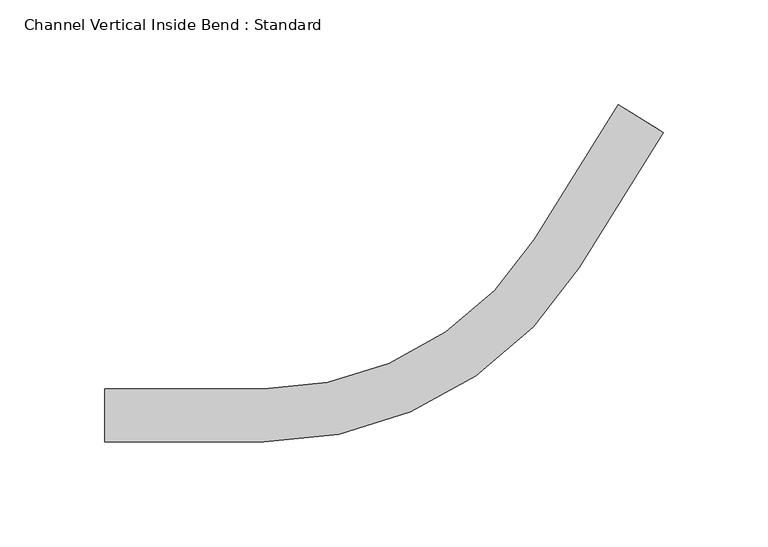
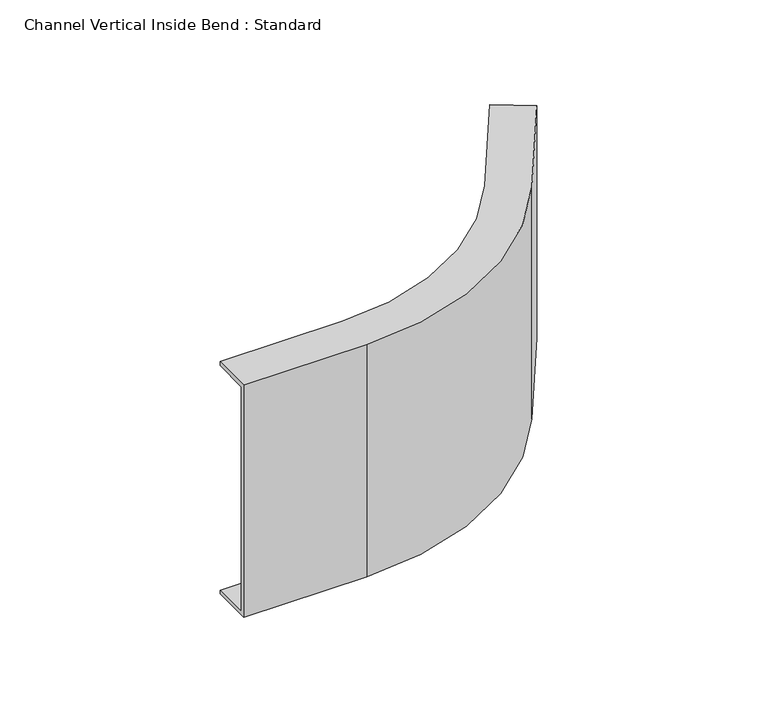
"""IFC4 building model written with IfcOpenShell, lengths in millimetres: cable carrier fitting geometry, Channel Vertical Inside Bend : Standard."""

from ifc_helpers import new_model, si_unit, frame, origin, place, context, project, spatial, polyline, circle_curve, source, transform, mapped, element, save
from ifc_brep_helpers import plane_surface, cylinder_surface, revolved_surface, advanced_brep


def channel_vertical_inside_bend_standard_a74fd786(model_context):
    return source(origin(), model_context, "Body", "AdvancedBrep", [
        advanced_brep(
        [(-167.7164244, 12.7, 76.2), (-167.7164244, 12.7, 73.66), (-167.7164244, -10.16, 73.66), (-167.7164244, -10.16, -73.66), (-167.7164244, 12.7, -73.66), (-167.7164244, 12.7, -76.2), (-167.7164244, -12.7, -76.2), (-167.7164244, -12.7, 76.2), (78.1059534, 148.9615691, 76.2), (99.646375, 135.5016197, 76.2), (99.646375, 135.5016197, -76.2), (78.1059534, 148.9615691, -76.2), (78.1059534, 148.9615691, -73.66), (97.4923329, 136.8476147, -73.66), (97.4923329, 136.8476147, 73.66), (78.1059534, 148.9615691, 73.66), (-91.5164244, -12.7, 76.2), (59.2665271, 70.8803548, 76.2), (37.7261055, 84.3403041, 76.2), (-91.5164244, 12.7, 76.2), (-91.5164244, -12.7, -76.2), (-91.5164244, 12.7, -76.2), (37.7261055, 84.3403041, -76.2), (59.2665271, 70.8803548, -76.2), (-91.5164244, 12.7, -73.66), (-91.5164244, -10.16, -73.66), (57.1124849, 72.2263497, -73.66), (37.7261055, 84.3403041, -73.66), (-91.5164244, -10.16, 73.66), (-91.5164244, 12.7, 73.66), (37.7261055, 84.3403041, 73.66), (57.1124849, 72.2263497, 73.66)],
        [
            (0, 1),
            (1, 2),
            (2, 3),
            (3, 4),
            (4, 5),
            (5, 6),
            (6, 7),
            (7, 0),
            (8, 9),
            (9, 10),
            (10, 11),
            (11, 12),
            (12, 13),
            (13, 14),
            (14, 15),
            (15, 8),
            (7, 16),
            (16, 17, circle_curve(frame((-91.5164244, 165.1, 76.2), z_axis=(0.0, 0.0, 1.0), x_axis=(0.0, -1.0, 0.0)), 177.8)),
            (17, 9),
            (8, 18),
            (18, 19, circle_curve(frame((-91.5164244, 165.1, 76.2), z_axis=(0.0, 0.0, -1.0), x_axis=(0.0, -1.0, 0.0)), 152.4)),
            (19, 0),
            (6, 20),
            (20, 16),
            (5, 21),
            (21, 22, circle_curve(frame((-91.5164244, 165.1, -76.2), z_axis=(0.0, 0.0, 1.0), x_axis=(0.0, -1.0, 0.0)), 152.4)),
            (22, 11),
            (10, 23),
            (23, 20, circle_curve(frame((-91.5164244, 165.1, -76.2), z_axis=(0.0, 0.0, -1.0), x_axis=(0.0, -1.0, 0.0)), 177.8)),
            (4, 24),
            (24, 21),
            (3, 25),
            (25, 26, circle_curve(frame((-91.5164244, 165.1, -73.66), z_axis=(0.0, 0.0, 1.0), x_axis=(0.0, -1.0, 0.0)), 175.26)),
            (26, 13),
            (12, 27),
            (27, 24, circle_curve(frame((-91.5164244, 165.1, -73.66), z_axis=(0.0, 0.0, -1.0), x_axis=(0.0, -1.0, 0.0)), 152.4)),
            (2, 28),
            (28, 25),
            (1, 29),
            (29, 30, circle_curve(frame((-91.5164244, 165.1, 73.66), z_axis=(0.0, 0.0, 1.0), x_axis=(0.0, -1.0, 0.0)), 152.4)),
            (30, 15),
            (14, 31),
            (31, 28, circle_curve(frame((-91.5164244, 165.1, 73.66), z_axis=(0.0, 0.0, -1.0), x_axis=(0.0, -1.0, 0.0)), 175.26)),
            (19, 29),
            (23, 17),
            (27, 22),
            (31, 26),
            (18, 30),
        ],
        [
            plane_surface(frame((-167.7164244, 0.0, 0.0), z_axis=(-1.0, 0.0, 0.0), x_axis=(0.0, 0.0, 1.0))),
            plane_surface(frame((88.8761642, 142.2315944, 0.0), z_axis=(0.5299192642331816, 0.8480480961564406, 0.0), x_axis=(0.0, 0.0, 1.0))),
            plane_surface(frame((-167.7164244, -12.7, 76.2), z_axis=(0.0, 0.0, 1.0), x_axis=(1.0, 0.0, 0.0))),
            plane_surface(frame((-167.7164244, -12.7, -76.2), z_axis=(0.0, -1.0, 0.0), x_axis=(1.0, 0.0, 0.0))),
            plane_surface(frame((-167.7164244, 12.7, -76.2), z_axis=(0.0, 0.0, -1.0), x_axis=(1.0, 0.0, 0.0))),
            plane_surface(frame((-167.7164244, 12.7, -73.66), z_axis=(0.0, 1.0, 0.0), x_axis=(1.0, 0.0, 0.0))),
            plane_surface(frame((-167.7164244, -10.16, -73.66), z_axis=(0.0, 0.0, 1.0), x_axis=(1.0, 0.0, 0.0))),
            plane_surface(frame((-167.7164244, -10.16, 73.66), z_axis=(0.0, 1.0, 0.0), x_axis=(1.0, 0.0, 0.0))),
            plane_surface(frame((-167.7164244, 12.7, 73.66), z_axis=(0.0, 0.0, -1.0), x_axis=(1.0, 0.0, 0.0))),
            plane_surface(frame((-167.7164244, 12.7, 76.2), z_axis=(0.0, 1.0, 0.0), x_axis=(1.0, 0.0, 0.0))),
            cylinder_surface(frame((-91.5164244, 165.1, 0.0), z_axis=(0.0, 0.0, 1.0), x_axis=(0.0, -1.0, 0.0)), 177.8),
            revolved_surface(polyline([(-91.5164244, 12.699999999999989, -73.66), (-91.5164244, 12.699999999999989, -76.2)]), (-91.5164244, 165.1, 0.0), (0.0, 0.0, 1.0)),
            revolved_surface(polyline([(-91.5164244, -10.159999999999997, 73.66), (-91.5164244, -10.159999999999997, -73.66)]), (-91.5164244, 165.1, 0.0), (0.0, 0.0, 1.0)),
            revolved_surface(polyline([(-91.5164244, 12.699999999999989, 76.2), (-91.5164244, 12.699999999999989, 73.66)]), (-91.5164244, 165.1, 0.0), (0.0, 0.0, 1.0)),
            plane_surface(frame((59.2665271, 70.8803548, -76.2), z_axis=(0.8480480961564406, -0.5299192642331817, 0.0), x_axis=(0.5299192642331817, 0.8480480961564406, 0.0))),
            plane_surface(frame((37.7261055, 84.3403041, -73.66), z_axis=(-0.8480480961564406, 0.5299192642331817, 0.0), x_axis=(0.5299192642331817, 0.8480480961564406, 0.0))),
            plane_surface(frame((57.1124849, 72.2263497, 73.66), z_axis=(-0.8480480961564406, 0.5299192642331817, 0.0), x_axis=(0.5299192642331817, 0.8480480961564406, 0.0))),
            plane_surface(frame((37.7261055, 84.3403041, 76.2), z_axis=(-0.8480480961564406, 0.5299192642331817, 0.0), x_axis=(0.5299192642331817, 0.8480480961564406, 0.0))),
        ],
        [
            (0, [[1, 2, 3, 4, 5, 6, 7, 8]]),
            (1, [[9, 10, 11, 12, 13, 14, 15, 16]]),
            (2, [[-8, 17, 18, 19, -9, 20, 21, 22]]),
            (3, [[-7, 23, 24, -17]]),
            (4, [[-6, 25, 26, 27, -11, 28, 29, -23]]),
            (5, [[-5, 30, 31, -25]]),
            (6, [[-4, 32, 33, 34, -13, 35, 36, -30]]),
            (7, [[-3, 37, 38, -32]]),
            (8, [[-2, 39, 40, 41, -15, 42, 43, -37]]),
            (9, [[-1, -22, 44, -39]]),
            (10, [[-18, -24, -29, 45]]),
            (11, [[-26, -31, -36, 46]]),
            (12, [[-33, -38, -43, 47]]),
            (13, [[-40, -44, -21, 48]]),
            (14, [[-45, -28, -10, -19]]),
            (15, [[-46, -35, -12, -27]]),
            (16, [[-47, -42, -14, -34]]),
            (17, [[-48, -20, -16, -41]]),
        ],
    ),
    ])


if __name__ == "__main__":
    model = new_model("IFC4")
    model_context = context("Model", 3, world=origin())
    ifc_project = project(units=[si_unit("LENGTHUNIT", "METRE", prefix="MILLI")], contexts=[model_context])
    site = spatial("IfcSite", under=ifc_project)
    building = spatial("IfcBuilding", under=site)
    placement = place(None, origin())
    channel_vertical_inside_bend_standard_shape = channel_vertical_inside_bend_standard_a74fd786(model_context)
    element("IfcCableCarrierFitting", 1, ObjectType="Channel Vertical Inside Bend : Standard", at=placement, inside=building, context=model_context, shape_type="MappedRepresentation", body=[
        mapped(channel_vertical_inside_bend_standard_shape, transform((0.0, 0.0, 0.0), x_axis=(1.0, 0.0, 0.0), y_axis=(0.0, 1.0, 0.0), z_axis=(0.0, 0.0, 1.0))),
    ])
    save(model, "model.ifc")
